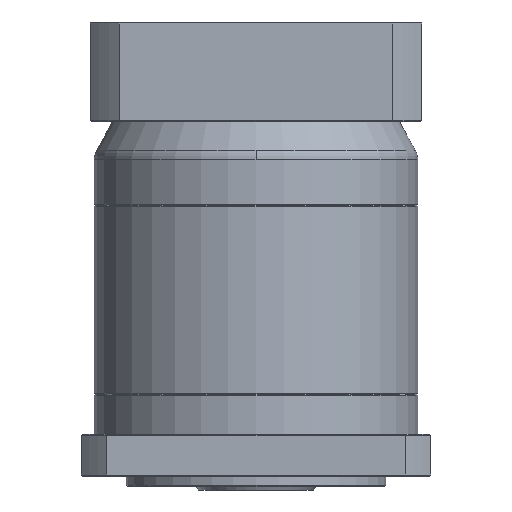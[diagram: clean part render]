
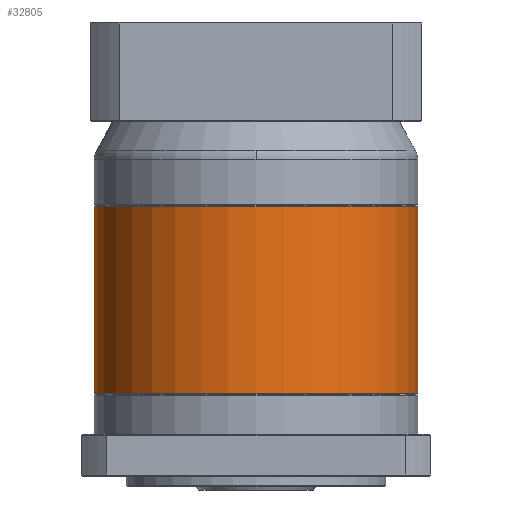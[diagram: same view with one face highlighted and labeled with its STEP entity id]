
A CAD part, front view. The second image highlights one B-rep face of the part: STEP entity #32805.
In plain terms, the highlighted cylindrical face has radius 81 mm (diameter 162 mm), a partial arc.
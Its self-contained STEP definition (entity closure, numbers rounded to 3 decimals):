
#16 = CIRCLE ( 'NONE', #95415, 81. ) ;
#271 = CARTESIAN_POINT ( 'NONE',  ( -52.943, 119.626, -75.793 ) ) ;
#535 = VECTOR ( 'NONE', #63405, 1000. ) ;
#1637 = CARTESIAN_POINT ( 'NONE',  ( -52.943, 119.626, -76.293 ) ) ;
#11211 = CARTESIAN_POINT ( 'NONE',  ( 28.057, 119.626, -169.793 ) ) ;
#16418 = AXIS2_PLACEMENT_3D ( 'NONE', #271, #19334, #29301 ) ;
#19334 = DIRECTION ( 'NONE',  ( 0., 0., -1. ) ) ;
#20599 = ORIENTED_EDGE ( 'NONE', *, *, #84099, .T. ) ;
#22422 = DIRECTION ( 'NONE',  ( 0., 0., -1. ) ) ;
#24307 = VERTEX_POINT ( 'NONE', #103677 ) ;
#29301 = DIRECTION ( 'NONE',  ( -1., 0., 0. ) ) ;
#32805 = ADVANCED_FACE ( 'NONE', ( #120027 ), #126207, .T. ) ;
#32990 = LINE ( 'NONE', #55459, #39239 ) ;
#33082 = CARTESIAN_POINT ( 'NONE',  ( -133.943, 119.626, -75.793 ) ) ;
#36443 = CARTESIAN_POINT ( 'NONE',  ( -52.943, 119.626, -169.793 ) ) ;
#36889 = DIRECTION ( 'NONE',  ( -1., 0., 0. ) ) ;
#39239 = VECTOR ( 'NONE', #95270, 1000. ) ;
#39918 = VERTEX_POINT ( 'NONE', #11211 ) ;
#44705 = CARTESIAN_POINT ( 'NONE',  ( -133.943, 119.626, -169.793 ) ) ;
#46380 = DIRECTION ( 'NONE',  ( 0., 0., 1. ) ) ;
#53177 = LINE ( 'NONE', #33082, #535 ) ;
#55459 = CARTESIAN_POINT ( 'NONE',  ( 28.057, 119.626, -75.793 ) ) ;
#63405 = DIRECTION ( 'NONE',  ( 0., 0., -1. ) ) ;
#64059 = ORIENTED_EDGE ( 'NONE', *, *, #72878, .T. ) ;
#67503 = EDGE_CURVE ( 'NONE', #24307, #92775, #16, .T. ) ;
#67601 = AXIS2_PLACEMENT_3D ( 'NONE', #36443, #46380, #36889 ) ;
#70173 = VERTEX_POINT ( 'NONE', #44705 ) ;
#70568 = CARTESIAN_POINT ( 'NONE',  ( -133.943, 119.626, -76.293 ) ) ;
#70907 = CIRCLE ( 'NONE', #67601, 81. ) ;
#72878 = EDGE_CURVE ( 'NONE', #70173, #39918, #70907, .T. ) ;
#73096 = EDGE_LOOP ( 'NONE', ( #123727, #102705, #20599, #64059 ) ) ;
#84099 = EDGE_CURVE ( 'NONE', #92775, #70173, #53177, .T. ) ;
#90001 = DIRECTION ( 'NONE',  ( -1., 0., 0. ) ) ;
#92775 = VERTEX_POINT ( 'NONE', #70568 ) ;
#95270 = DIRECTION ( 'NONE',  ( 0., 0., -1. ) ) ;
#95415 = AXIS2_PLACEMENT_3D ( 'NONE', #1637, #22422, #90001 ) ;
#102705 = ORIENTED_EDGE ( 'NONE', *, *, #67503, .T. ) ;
#103677 = CARTESIAN_POINT ( 'NONE',  ( 28.057, 119.626, -76.293 ) ) ;
#108753 = EDGE_CURVE ( 'NONE', #24307, #39918, #32990, .T. ) ;
#120027 = FACE_OUTER_BOUND ( 'NONE', #73096, .T. ) ;
#123727 = ORIENTED_EDGE ( 'NONE', *, *, #108753, .F. ) ;
#126207 = CYLINDRICAL_SURFACE ( 'NONE', #16418, 81. ) ;
